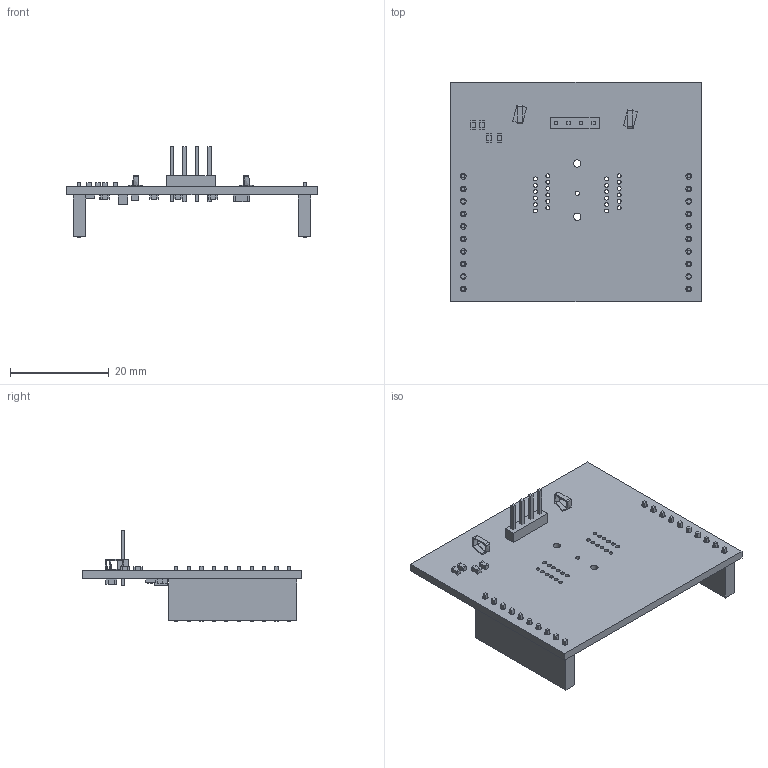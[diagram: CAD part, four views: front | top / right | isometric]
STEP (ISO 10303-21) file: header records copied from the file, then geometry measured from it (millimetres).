
FILE_DESCRIPTION(('Open CASCADE Model'),'2;1');
FILE_NAME('Open CASCADE Shape Model','2014-08-21T11:48:06',('Author'),( 'Open CASCADE'),'Open CASCADE STEP processor 6.2','Open CASCADE 6.2' ,'Unknown');
FILE_SCHEMA(('AUTOMOTIVE_DESIGN { 1 0 10303 214 1 1 1 1 }'));
Length unit declared in the file: millimetre
Products named in the file (56): PCB; Board; C1; 557548816; Extruded; 557549328; J1; 557549712; 557549840; J2; C2; C3; 557550480; 557550608; C4; C5; 557550352; 557550224; C6; C7; C8; 557549456; 557549584; C9; 557549968; 557550096; C10; J3; 557550992; 557551376; R1; R2; R3; R4; R5; TP1; keystone_5016; TP2; U2; 557550736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
Assembly tree (114 placements, depth 4):
  PCB
    Board
    C1
      557548816  x2
        Extruded
      557549328
        Extruded
    J1
      557549712
        Extruded
      557549840  x10
        Extruded
    J2
      557549712
        Extruded
      557549840  x10
        Extruded
    C2
      557548816  x2
        Extruded
      557549328
        Extruded
    C3
      557550480  x2
        Extruded
      557550608
        Extruded
    C4
      557548816  x2
        Extruded
      557549328
        Extruded
    C5
      557550352
        Extruded
      557550224  x2
        Extruded
    C6
      557548816  x2
        Extruded
      557549328
        Extruded
    C7
      557548816  x2
        Extruded
      557549328
        Extruded
    C8
      557549456  x2
        Extruded
      557549584
        Extruded
    C9
      557549968  x2
        Extruded
      557550096
        Extruded
    C10
      557549456  x2
        Extruded
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Bounding box: 50.8 x 44.45 x 18.36 mm (x, y, z)
Volume: 4991.6 mm3; surface area: 7383.1 mm2
Topology: 77 solids, 77 shells, 573 faces, 1237 edges, 818 vertices
Faces by surface type: plane 490, cylinder 55, bspline 28
Full cylindrical faces by diameter (mm): 0.787 x24, 0.864 x1, 1 x4, 1.15 x20, 1.499 x2
Entity records: 16189 total; most frequent: CARTESIAN_POINT 5278, DIRECTION 1879, LINE 1069, VECTOR 1069, ORIENTED_EDGE 934, PCURVE 934, DEFINITIONAL_REPRESENTATION 934, EDGE_CURVE 467
